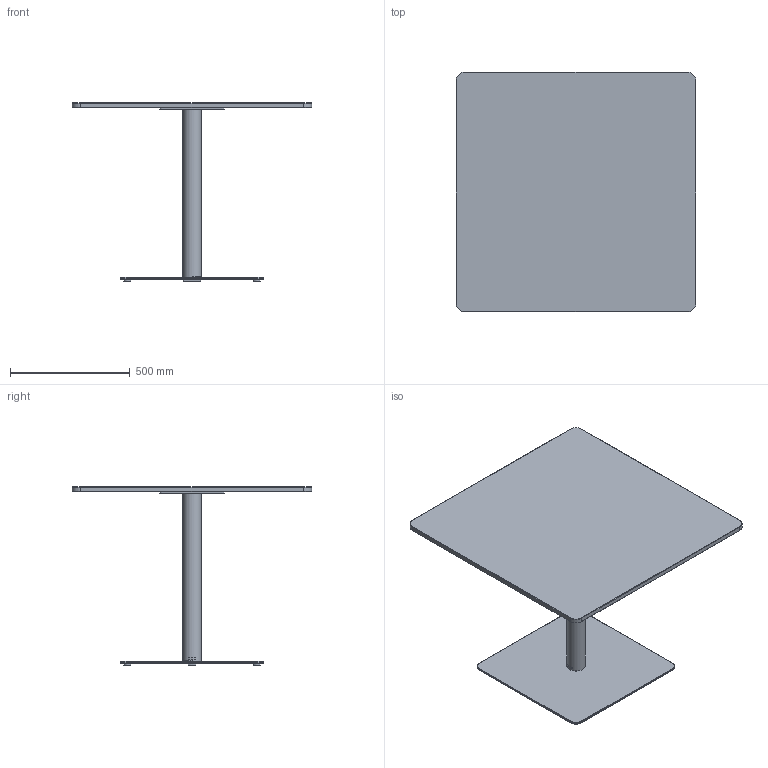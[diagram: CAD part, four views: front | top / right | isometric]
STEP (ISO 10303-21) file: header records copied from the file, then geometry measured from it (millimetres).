
FILE_DESCRIPTION( ('This file contains a STEP AP42 implementation' ,'as created by ZW3D STEP Interface translator.') ,'2;1' );
FILE_NAME( 'Henri - B_Carré - F3 - M1 - 1000 x 1000 x 750.stp' ,'24 912.17 644', (''), ('ZWCAD Software Co.'), 'Version 1.0', 'ZW3D to STEP translator', '' );
FILE_SCHEMA(('AUTOMOTIVE_DESIGN { 1 0 10303 214 1 1 1 1 }'));
Length unit declared in the file: millimetre
Products named in the file (14): 0; PIED BISTROT PARAMETRIQUE_; COLONNE ACIER Ø76 V.02_; TUB-D076-02_; PLA-R76B-01_; CROIX ACIER 370 V.02_; CRX-X370-02_; SOCLE ACIER L 600x600 V.02_; SCL-R600-02_; PLA-R30A-01_; PLA-R30A-01; WUERTH 0276063020 Euro-screw 6.3x2 Verzinkt_; PLATEAU BISTROT PARAMETRIQUE_; insert_m6_13_
Assembly tree (22 placements, depth 3):
  0
  PIED BISTROT PARAMETRIQUE_
    COLONNE ACIER Ø76 V.02_
      TUB-D076-02_
      PLA-R76B-01_  x2
    CROIX ACIER 370 V.02_
      CRX-X370-02_
    SOCLE ACIER L 600x600 V.02_
      SCL-R600-02_
      PLA-R30A-01_
      PLA-R30A-01  x3
    WUERTH 0276063020 Euro-screw 6.3x2 Verzinkt_
    PLATEAU BISTROT PARAMETRIQUE_
      insert_m6_13_  x8
Bounding box: 1000 x 1000 x 744 mm (x, y, z)
Volume: 23781337.6 mm3; surface area: 3326169.5 mm2
Topology: 19 solids, 19 shells, 537 faces, 1310 edges, 822 vertices
Faces by surface type: plane 262, bspline 121, cylinder 98, cone 55, torus 1
Full cylindrical faces by diameter (mm): 4.88 x1, 6 x8, 6.3 x1, 8 x45, 12 x2, 14 x2, 30 x4, 72 x1, 76 x1
Entity records: 12310 total; most frequent: CARTESIAN_POINT 3396, ORIENTED_EDGE 1624, DIRECTION 1519, EDGE_CURVE 812, VERTEX_POINT 518, VECTOR 513, LINE 513, AXIS2_PLACEMENT_3D 503
